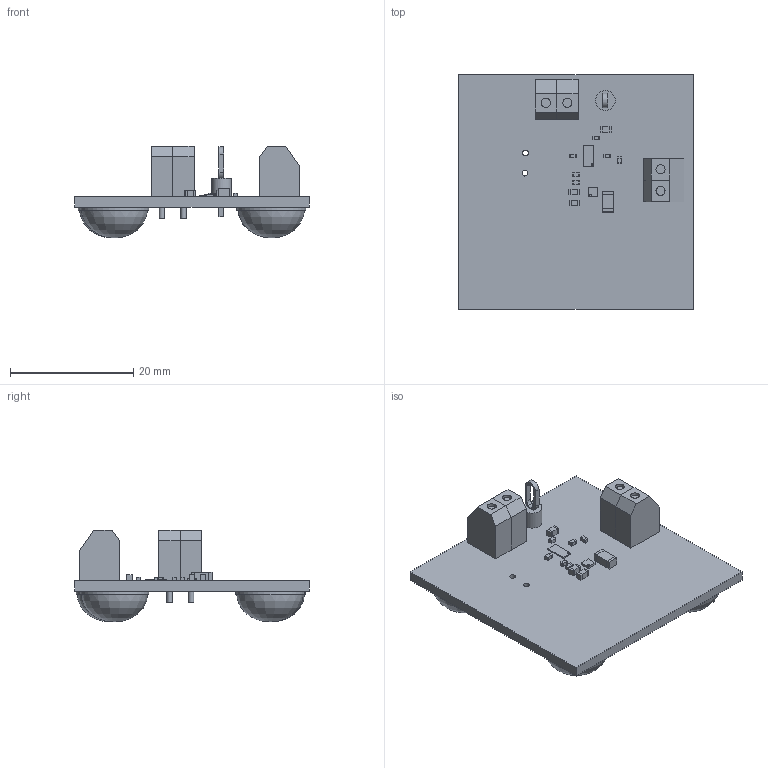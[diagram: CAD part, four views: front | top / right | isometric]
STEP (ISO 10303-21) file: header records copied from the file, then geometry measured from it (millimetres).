
FILE_DESCRIPTION(('Open CASCADE Model'),'2;1');
FILE_NAME('Open CASCADE Shape Model','2017-09-27T11:40:26',('Author'),( 'Open CASCADE'),'Open CASCADE STEP processor 6.8','Open CASCADE 6.8' ,'Unknown');
FILE_SCHEMA(('AUTOMOTIVE_DESIGN { 1 0 10303 214 1 1 1 1 }'));
Length unit declared in the file: millimetre
Products named in the file (51): PCB; Board; H1; 3M_SJ5003Transparent; H2; H3; H4; C1; 1547001832; Extruded; 1547001968; C2; C3; J2; On-Shore_ED555_2DS; On-Shore_ED555; J1; R1; 1547002104; 1547002240; R2; R3; R4; R5; 1547002376; 1547002512; R6; R7; 1547001560; 1547001696; TP3; Keystone_5012; Keystone_multipurpose_wire; Keystone5007_white; U1; 1547003056; 1547002784; U2; 1547002920; 1547002648
Assembly tree (77 placements, depth 4):
  PCB
    Board
    H1
      3M_SJ5003Transparent
    H2
      3M_SJ5003Transparent
    H3
      3M_SJ5003Transparent
    H4
      3M_SJ5003Transparent
    C1
      1547001832  x2
        Extruded
      1547001968
        Extruded
    C2
      1547001832  x2
        Extruded
      1547001968
        Extruded
    C3
      1547001832  x2
        Extruded
      1547001968
        Extruded
    J2
      On-Shore_ED555_2DS
        On-Shore_ED555  x2
    J1
      On-Shore_ED555_2DS
        On-Shore_ED555  x2
    R1
      1547002104  x2
        Extruded
      1547002240
        Extruded
    R2
      1547002104  x2
        Extruded
      1547002240
        Extruded
    R3
      1547002104  x2
        Extruded
      1547002240
        Extruded
    R4
      1547002104  x2
        Extruded
      1547002240
        Extruded
    R5
      1547002376  x2
        Extruded
      1547002512
        Extruded
    R6
      1547002104  x2
        Extruded
      1547002240
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Bounding box: 38.1 x 38.1 x 14.87 mm (x, y, z)
Volume: 4411.1 mm3; surface area: 5380.4 mm2
Topology: 45 solids, 45 shells, 358 faces, 756 edges, 504 vertices
Faces by surface type: plane 316, cylinder 38, revolution 4
Full cylindrical faces by diameter (mm): 0.005 x4, 0.9 x4, 0.965 x2, 1.27 x4, 1.477 x4, 1.6 x1, 1.998 x4, 3.2 x1, 11.1 x4
Entity records: 6032 total; most frequent: DIRECTION 914, CARTESIAN_POINT 893, ORIENTED_EDGE 768, EDGE_CURVE 384, LINE 329, VECTOR 329, AXIS2_PLACEMENT_3D 292, VERTEX_POINT 256
